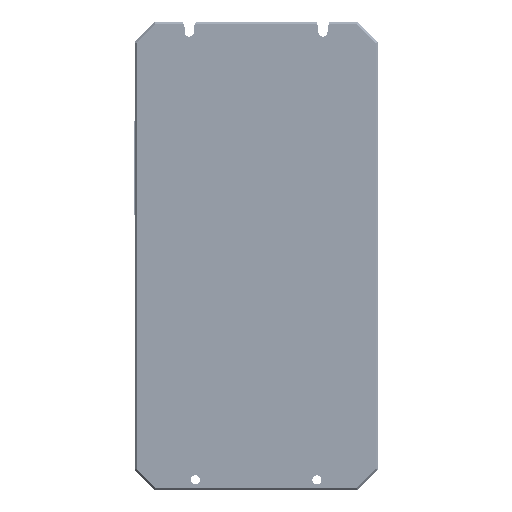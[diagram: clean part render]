
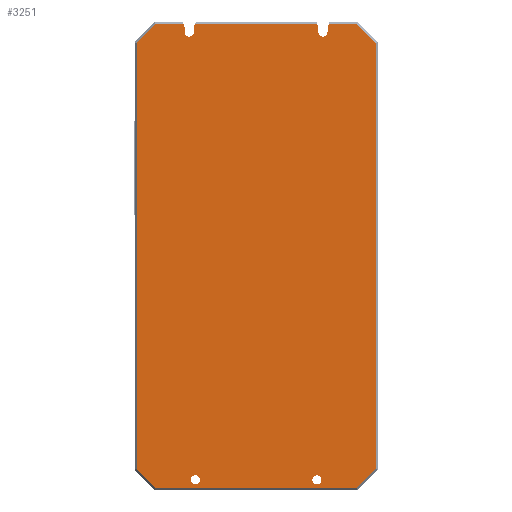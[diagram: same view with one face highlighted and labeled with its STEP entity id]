
A CAD part, front view. The second image highlights one B-rep face of the part: STEP entity #3251.
In plain terms, the highlighted planar face has unit normal (0, -1, 0).
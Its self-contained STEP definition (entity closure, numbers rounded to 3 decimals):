
#240=CARTESIAN_POINT('',(30.,-10.,-111.));
#241=DIRECTION('',(0.,1.,0.));
#242=DIRECTION('',(0.,0.,-1.));
#243=AXIS2_PLACEMENT_3D('',#240,#241,#242);
#248=CARTESIAN_POINT('',(30.,-10.,-111.));
#249=DIRECTION('',(0.,1.,0.));
#250=DIRECTION('',(0.,0.,1.));
#251=AXIS2_PLACEMENT_3D('',#248,#249,#250);
#256=CARTESIAN_POINT('',(-30.,-10.,-111.));
#257=DIRECTION('',(0.,1.,0.));
#258=DIRECTION('',(0.,0.,-1.));
#259=AXIS2_PLACEMENT_3D('',#256,#257,#258);
#264=CARTESIAN_POINT('',(-30.,-10.,-111.));
#265=DIRECTION('',(0.,1.,0.));
#266=DIRECTION('',(0.,0.,1.));
#267=AXIS2_PLACEMENT_3D('',#264,#265,#266);
#272=DIRECTION('',(-1.,0.,0.));
#273=VECTOR('',#272,13.736);
#274=CARTESIAN_POINT('',(49.586,-10.,114.));
#275=LINE('',#274,#273);
#279=DIRECTION('',(-0.707,0.,0.707));
#280=VECTOR('',#279,13.314);
#281=CARTESIAN_POINT('',(59.,-10.,104.586));
#282=LINE('',#281,#280);
#286=DIRECTION('',(0.,0.,1.));
#287=VECTOR('',#286,210.172);
#288=CARTESIAN_POINT('',(59.,-10.,-105.586));
#289=LINE('',#288,#287);
#293=DIRECTION('',(0.707,0.,0.707));
#294=VECTOR('',#293,13.314);
#295=CARTESIAN_POINT('',(49.586,-10.,-115.));
#296=LINE('',#295,#294);
#300=DIRECTION('',(1.,0.,0.));
#301=VECTOR('',#300,99.172);
#302=CARTESIAN_POINT('',(-49.586,-10.,-115.));
#303=LINE('',#302,#301);
#307=DIRECTION('',(0.707,0.,-0.707));
#308=VECTOR('',#307,13.314);
#309=CARTESIAN_POINT('',(-59.,-10.,-105.586));
#310=LINE('',#309,#308);
#314=DIRECTION('',(0.,0.,-1.));
#315=VECTOR('',#314,210.172);
#316=CARTESIAN_POINT('',(-59.,-10.,104.586));
#317=LINE('',#316,#315);
#321=DIRECTION('',(-0.707,0.,-0.707));
#322=VECTOR('',#321,13.314);
#323=CARTESIAN_POINT('',(-49.586,-10.,114.));
#324=LINE('',#323,#322);
#328=DIRECTION('',(-1.,0.,0.));
#329=VECTOR('',#328,13.736);
#330=CARTESIAN_POINT('',(-35.85,-10.,114.));
#331=LINE('',#330,#329);
#335=DIRECTION('',(-0.371,0.,0.928));
#336=VECTOR('',#335,1.616);
#337=CARTESIAN_POINT('',(-35.25,-10.,112.5));
#338=LINE('',#337,#336);
#342=DIRECTION('',(0.,0.,1.));
#343=VECTOR('',#342,2.5);
#344=CARTESIAN_POINT('',(-35.25,-10.,110.));
#345=LINE('',#344,#343);
#349=CARTESIAN_POINT('',(-33.,-10.,110.));
#350=DIRECTION('',(0.,1.,0.));
#351=DIRECTION('',(1.,0.,0.));
#352=AXIS2_PLACEMENT_3D('',#349,#350,#351);
#357=DIRECTION('',(0.,0.,-1.));
#358=VECTOR('',#357,2.5);
#359=CARTESIAN_POINT('',(-30.75,-10.,112.5));
#360=LINE('',#359,#358);
#364=DIRECTION('',(-0.371,0.,-0.928));
#365=VECTOR('',#364,1.616);
#366=CARTESIAN_POINT('',(-30.15,-10.,114.));
#367=LINE('',#366,#365);
#371=DIRECTION('',(-1.,0.,0.));
#372=VECTOR('',#371,60.3);
#373=CARTESIAN_POINT('',(30.15,-10.,114.));
#374=LINE('',#373,#372);
#378=DIRECTION('',(-0.371,0.,0.928));
#379=VECTOR('',#378,1.616);
#380=CARTESIAN_POINT('',(30.75,-10.,112.5));
#381=LINE('',#380,#379);
#385=DIRECTION('',(0.,0.,1.));
#386=VECTOR('',#385,2.5);
#387=CARTESIAN_POINT('',(30.75,-10.,110.));
#388=LINE('',#387,#386);
#392=CARTESIAN_POINT('',(33.,-10.,110.));
#393=DIRECTION('',(0.,1.,0.));
#394=DIRECTION('',(1.,0.,0.));
#395=AXIS2_PLACEMENT_3D('',#392,#393,#394);
#400=DIRECTION('',(0.,0.,-1.));
#401=VECTOR('',#400,2.5);
#402=CARTESIAN_POINT('',(35.25,-10.,112.5));
#403=LINE('',#402,#401);
#407=DIRECTION('',(-0.371,0.,-0.928));
#408=VECTOR('',#407,1.616);
#409=CARTESIAN_POINT('',(35.85,-10.,114.));
#410=LINE('',#409,#408);
#2996=CARTESIAN_POINT('',(30.,-10.,-113.25));
#2997=CARTESIAN_POINT('',(30.,-10.,-108.75));
#2998=VERTEX_POINT('',#2996);
#2999=VERTEX_POINT('',#2997);
#3000=CARTESIAN_POINT('',(-30.,-10.,-113.25));
#3001=CARTESIAN_POINT('',(-30.,-10.,-108.75));
#3002=VERTEX_POINT('',#3000);
#3003=VERTEX_POINT('',#3001);
#3004=CARTESIAN_POINT('',(35.25,-10.,112.5));
#3005=CARTESIAN_POINT('',(35.25,-10.,110.));
#3006=VERTEX_POINT('',#3004);
#3007=VERTEX_POINT('',#3005);
#3008=CARTESIAN_POINT('',(30.75,-10.,110.));
#3009=VERTEX_POINT('',#3008);
#3010=CARTESIAN_POINT('',(30.75,-10.,112.5));
#3011=VERTEX_POINT('',#3010);
#3012=CARTESIAN_POINT('',(-30.75,-10.,112.5));
#3013=CARTESIAN_POINT('',(-30.75,-10.,110.));
#3014=VERTEX_POINT('',#3012);
#3015=VERTEX_POINT('',#3013);
#3016=CARTESIAN_POINT('',(-35.25,-10.,110.));
#3017=VERTEX_POINT('',#3016);
#3018=CARTESIAN_POINT('',(-35.25,-10.,112.5));
#3019=VERTEX_POINT('',#3018);
#3052=CARTESIAN_POINT('',(35.85,-10.,114.));
#3054=VERTEX_POINT('',#3052);
#3058=CARTESIAN_POINT('',(49.586,-10.,114.));
#3059=VERTEX_POINT('',#3058);
#3062=CARTESIAN_POINT('',(59.,-10.,104.586));
#3063=VERTEX_POINT('',#3062);
#3066=CARTESIAN_POINT('',(59.,-10.,-105.586));
#3067=VERTEX_POINT('',#3066);
#3068=CARTESIAN_POINT('',(49.586,-10.,-115.));
#3069=VERTEX_POINT('',#3068);
#3074=CARTESIAN_POINT('',(-49.586,-10.,-115.));
#3075=VERTEX_POINT('',#3074);
#3078=CARTESIAN_POINT('',(-59.,-10.,-105.586));
#3079=VERTEX_POINT('',#3078);
#3082=CARTESIAN_POINT('',(-59.,-10.,104.586));
#3083=VERTEX_POINT('',#3082);
#3084=CARTESIAN_POINT('',(-49.586,-10.,114.));
#3085=VERTEX_POINT('',#3084);
#3089=CARTESIAN_POINT('',(-35.85,-10.,114.));
#3091=VERTEX_POINT('',#3089);
#3092=CARTESIAN_POINT('',(-30.15,-10.,114.));
#3094=VERTEX_POINT('',#3092);
#3098=CARTESIAN_POINT('',(30.15,-10.,114.));
#3099=VERTEX_POINT('',#3098);
#3194=CARTESIAN_POINT('',(0.,-10.,-105.));
#3195=DIRECTION('',(0.,-1.,0.));
#3196=DIRECTION('',(0.,0.,-1.));
#3197=AXIS2_PLACEMENT_3D('',#3194,#3195,#3196);
#3198=PLANE('',#3197);
#3200=ORIENTED_EDGE('',*,*,#3199,.F.);
#3202=ORIENTED_EDGE('',*,*,#3201,.F.);
#3204=ORIENTED_EDGE('',*,*,#3203,.F.);
#3206=ORIENTED_EDGE('',*,*,#3205,.F.);
#3208=ORIENTED_EDGE('',*,*,#3207,.F.);
#3210=ORIENTED_EDGE('',*,*,#3209,.F.);
#3211=ORIENTED_EDGE('',*,*,#3172,.F.);
#3212=ORIENTED_EDGE('',*,*,#3184,.F.);
#3214=ORIENTED_EDGE('',*,*,#3213,.F.);
#3216=ORIENTED_EDGE('',*,*,#3215,.F.);
#3218=ORIENTED_EDGE('',*,*,#3217,.F.);
#3220=ORIENTED_EDGE('',*,*,#3219,.F.);
#3222=ORIENTED_EDGE('',*,*,#3221,.F.);
#3224=ORIENTED_EDGE('',*,*,#3223,.F.);
#3226=ORIENTED_EDGE('',*,*,#3225,.F.);
#3228=ORIENTED_EDGE('',*,*,#3227,.F.);
#3230=ORIENTED_EDGE('',*,*,#3229,.F.);
#3232=ORIENTED_EDGE('',*,*,#3231,.F.);
#3234=ORIENTED_EDGE('',*,*,#3233,.F.);
#3236=ORIENTED_EDGE('',*,*,#3235,.F.);
#3237=EDGE_LOOP('',(#3200,#3202,#3204,#3206,#3208,#3210,#3211,#3212,#3214,#3216,
#3218,#3220,#3222,#3224,#3226,#3228,#3230,#3232,#3234,#3236));
#3238=FACE_OUTER_BOUND('',#3237,.F.);
#3240=ORIENTED_EDGE('',*,*,#3239,.F.);
#3242=ORIENTED_EDGE('',*,*,#3241,.F.);
#3243=EDGE_LOOP('',(#3240,#3242));
#3244=FACE_BOUND('',#3243,.F.);
#3246=ORIENTED_EDGE('',*,*,#3245,.F.);
#3248=ORIENTED_EDGE('',*,*,#3247,.F.);
#3249=EDGE_LOOP('',(#3246,#3248));
#3250=FACE_BOUND('',#3249,.F.);
#244=CIRCLE('',#243,2.25);
#252=CIRCLE('',#251,2.25);
#260=CIRCLE('',#259,2.25);
#268=CIRCLE('',#267,2.25);
#353=CIRCLE('',#352,2.25);
#396=CIRCLE('',#395,2.25);
#3172=EDGE_CURVE('',#3083,#3079,#317,.T.);
#3184=EDGE_CURVE('',#3085,#3083,#324,.T.);
#3199=EDGE_CURVE('',#3059,#3054,#275,.T.);
#3201=EDGE_CURVE('',#3063,#3059,#282,.T.);
#3203=EDGE_CURVE('',#3067,#3063,#289,.T.);
#3205=EDGE_CURVE('',#3069,#3067,#296,.T.);
#3207=EDGE_CURVE('',#3075,#3069,#303,.T.);
#3209=EDGE_CURVE('',#3079,#3075,#310,.T.);
#3213=EDGE_CURVE('',#3091,#3085,#331,.T.);
#3215=EDGE_CURVE('',#3019,#3091,#338,.T.);
#3217=EDGE_CURVE('',#3017,#3019,#345,.T.);
#3219=EDGE_CURVE('',#3015,#3017,#353,.T.);
#3221=EDGE_CURVE('',#3014,#3015,#360,.T.);
#3223=EDGE_CURVE('',#3094,#3014,#367,.T.);
#3225=EDGE_CURVE('',#3099,#3094,#374,.T.);
#3227=EDGE_CURVE('',#3011,#3099,#381,.T.);
#3229=EDGE_CURVE('',#3009,#3011,#388,.T.);
#3231=EDGE_CURVE('',#3007,#3009,#396,.T.);
#3233=EDGE_CURVE('',#3006,#3007,#403,.T.);
#3235=EDGE_CURVE('',#3054,#3006,#410,.T.);
#3239=EDGE_CURVE('',#3002,#3003,#260,.T.);
#3241=EDGE_CURVE('',#3003,#3002,#268,.T.);
#3245=EDGE_CURVE('',#2998,#2999,#244,.T.);
#3247=EDGE_CURVE('',#2999,#2998,#252,.T.);
#3251=ADVANCED_FACE('',(#3238,#3244,#3250),#3198,.T.);
